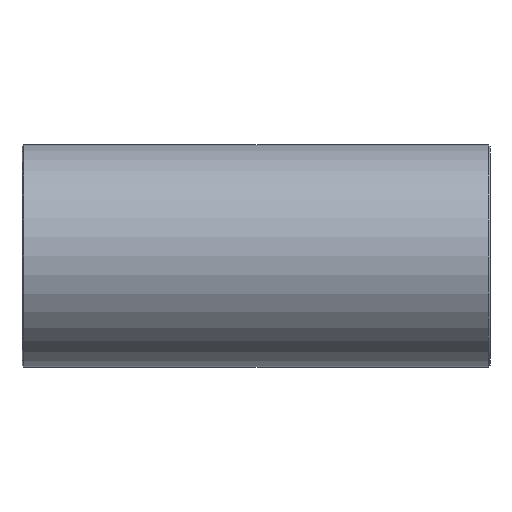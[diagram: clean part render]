
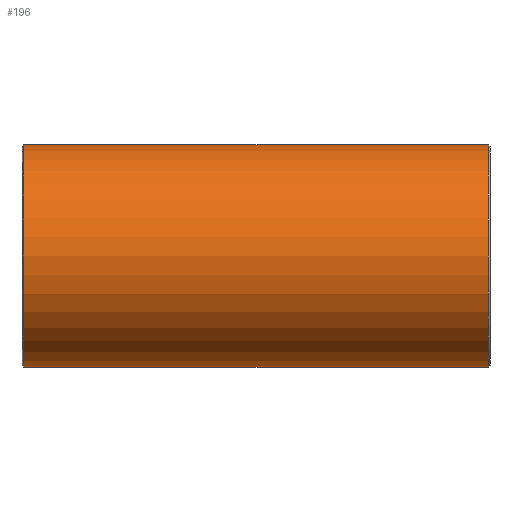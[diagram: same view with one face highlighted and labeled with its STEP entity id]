
A CAD part, front view. The second image highlights one B-rep face of the part: STEP entity #196.
In plain terms, the highlighted cylindrical face has radius 12.7 mm (diameter 25.4 mm), a full revolution.
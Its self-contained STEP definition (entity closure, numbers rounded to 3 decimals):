
#73=CARTESIAN_POINT('',(26.5,12.7,0.));
#74=VERTEX_POINT('',#73);
#75=CARTESIAN_POINT('',(26.5,0.0,0.0));
#76=DIRECTION('',(1.0,0.0,0.0));
#77=DIRECTION('',(0.0,-1.0,0.0));
#78=AXIS2_PLACEMENT_3D('',#75,#76,#77);
#79=CIRCLE('',#78,12.7);
#80=EDGE_CURVE('',#74,#74,#79,.T.);
#116=CARTESIAN_POINT('',(0.0,0.0,0.0));
#117=DIRECTION('',(1.0,0.0,0.0));
#118=DIRECTION('',(0.0,1.0,0.0));
#119=AXIS2_PLACEMENT_3D('',#116,#117,#118);
#120=CYLINDRICAL_SURFACE('',#119,12.7);
#121=CARTESIAN_POINT('',(-26.5,12.7,0.));
#122=VERTEX_POINT('',#121);
#123=CARTESIAN_POINT('',(-26.5,0.0,0.0));
#124=DIRECTION('',(-1.0,0.0,0.0));
#125=DIRECTION('',(0.0,-1.0,0.0));
#126=AXIS2_PLACEMENT_3D('',#123,#124,#125);
#127=CIRCLE('',#126,12.7);
#128=EDGE_CURVE('',#122,#122,#127,.T.);
#129=ORIENTED_EDGE('',*,*,#128,.F.);
#130=EDGE_LOOP('',(#129));
#131=FACE_OUTER_BOUND('',#130,.T.);
#132=CARTESIAN_POINT('',(0.,9.87,7.991));
#133=VERTEX_POINT('',#132);
#134=CARTESIAN_POINT('',(0.,9.87,7.992));
#135=CARTESIAN_POINT('',(0.,9.87,7.992));
#136=CARTESIAN_POINT('',(0.,9.87,7.992));
#137=CARTESIAN_POINT('',(0.,9.87,7.992));
#138=CARTESIAN_POINT('',(0.355,9.87,7.992));
#139=CARTESIAN_POINT('',(1.066,9.899,7.956));
#140=CARTESIAN_POINT('',(2.282,10.045,7.773));
#141=CARTESIAN_POINT('',(3.283,10.259,7.491));
#142=CARTESIAN_POINT('',(4.221,10.517,7.121));
#143=CARTESIAN_POINT('',(4.958,10.753,6.766));
#144=CARTESIAN_POINT('',(5.716,11.032,6.299));
#145=CARTESIAN_POINT('',(6.225,11.239,5.917));
#146=CARTESIAN_POINT('',(6.71,11.445,5.511));
#147=CARTESIAN_POINT('',(7.44,11.772,4.81));
#148=CARTESIAN_POINT('',(8.12,12.107,3.895));
#149=CARTESIAN_POINT('',(8.591,12.349,2.982));
#150=CARTESIAN_POINT('',(8.826,12.472,2.418));
#151=CARTESIAN_POINT('',(9.076,12.606,1.633));
#152=CARTESIAN_POINT('',(9.296,12.725,0.419));
#153=CARTESIAN_POINT('',(9.24,12.694,-0.824));
#154=CARTESIAN_POINT('',(9.016,12.573,-1.821));
#155=CARTESIAN_POINT('',(8.705,12.408,-2.8));
#156=CARTESIAN_POINT('',(8.13,12.109,-3.907));
#157=CARTESIAN_POINT('',(7.23,11.676,-5.03));
#158=CARTESIAN_POINT('',(6.301,11.264,-5.889));
#159=CARTESIAN_POINT('',(5.252,10.852,-6.613));
#160=CARTESIAN_POINT('',(4.078,10.464,-7.206));
#161=CARTESIAN_POINT('',(2.788,10.139,-7.652));
#162=CARTESIAN_POINT('',(1.422,9.923,-7.928));
#163=CARTESIAN_POINT('',(-0.002,9.844,-8.024));
#164=CARTESIAN_POINT('',(-1.424,9.923,-7.927));
#165=CARTESIAN_POINT('',(-2.791,10.14,-7.651));
#166=CARTESIAN_POINT('',(-4.083,10.466,-7.203));
#167=CARTESIAN_POINT('',(-5.25,10.851,-6.614));
#168=CARTESIAN_POINT('',(-6.305,11.266,-5.886));
#169=CARTESIAN_POINT('',(-7.229,11.675,-5.031));
#170=CARTESIAN_POINT('',(-7.828,11.964,-4.283));
#171=CARTESIAN_POINT('',(-8.498,12.298,-3.242));
#172=CARTESIAN_POINT('',(-8.907,12.515,-2.299));
#173=CARTESIAN_POINT('',(-9.149,12.645,-1.228));
#174=CARTESIAN_POINT('',(-9.231,12.69,-0.617));
#175=CARTESIAN_POINT('',(-9.259,12.705,-0.005));
#176=CARTESIAN_POINT('',(-9.205,12.676,1.229));
#177=CARTESIAN_POINT('',(-8.823,12.467,2.628));
#178=CARTESIAN_POINT('',(-8.001,12.047,4.068));
#179=CARTESIAN_POINT('',(-7.102,11.614,5.19));
#180=CARTESIAN_POINT('',(-6.056,11.158,6.09));
#181=CARTESIAN_POINT('',(-4.962,10.754,6.763));
#182=CARTESIAN_POINT('',(-4.072,10.47,7.194));
#183=CARTESIAN_POINT('',(-3.114,10.22,7.543));
#184=CARTESIAN_POINT('',(-2.111,10.025,7.798));
#185=CARTESIAN_POINT('',(-1.068,9.9,7.956));
#186=CARTESIAN_POINT('',(-0.355,9.87,7.992));
#187=CARTESIAN_POINT('',(0.,9.87,7.992));
#188=B_SPLINE_CURVE_WITH_KNOTS('',3,(#134,#135,#136,#137,#138,#139,#140,#141,#142,#143,#144,#145,#146,#147,#148,#149,#150,#151,#152,#153,#154,#155,#156,#157,#158,#159,#160,#161,#162,#163,#164,#165,#166,#167,#168,#169,#170,#171,#172,#173,#174,#175,#176,#177,#178,#179,#180,#181,#182,#183,#184,#185,#186,#187),.UNSPECIFIED.,.T.,.U.,(4,3,1,1,1,1,1,1,1,1,1,1,1,1,1,1,1,1,1,1,1,1,1,1,1,1,1,1,1,1,1,1,1,1,1,1,1,1,1,1,1,1,1,1,1,1,1,1,1,4),(-4.492,-4.492,-4.412,-4.331,-4.211,-4.171,-4.091,-4.011,-3.95,-3.93,-3.85,-3.69,-3.636,-3.583,-3.529,-3.422,-3.262,-3.208,-3.155,-2.995,-2.888,-2.781,-2.674,-2.567,-2.46,-2.353,-2.246,-2.139,-2.032,-1.925,-1.818,-1.711,-1.604,-1.497,-1.462,-1.283,-1.23,-1.176,-1.123,-1.069,-0.856,-0.749,-0.642,-0.481,-0.401,-0.321,-0.241,-0.16,-0.08,0.),.UNSPECIFIED.);
#189=EDGE_CURVE('',#133,#133,#188,.T.);
#190=ORIENTED_EDGE('',*,*,#189,.F.);
#191=EDGE_LOOP('',(#190));
#192=FACE_BOUND('',#191,.T.);
#193=ORIENTED_EDGE('',*,*,#80,.F.);
#194=EDGE_LOOP('',(#193));
#195=FACE_BOUND('',#194,.T.);
#196=ADVANCED_FACE('',(#131,#192,#195),#120,.T.);
